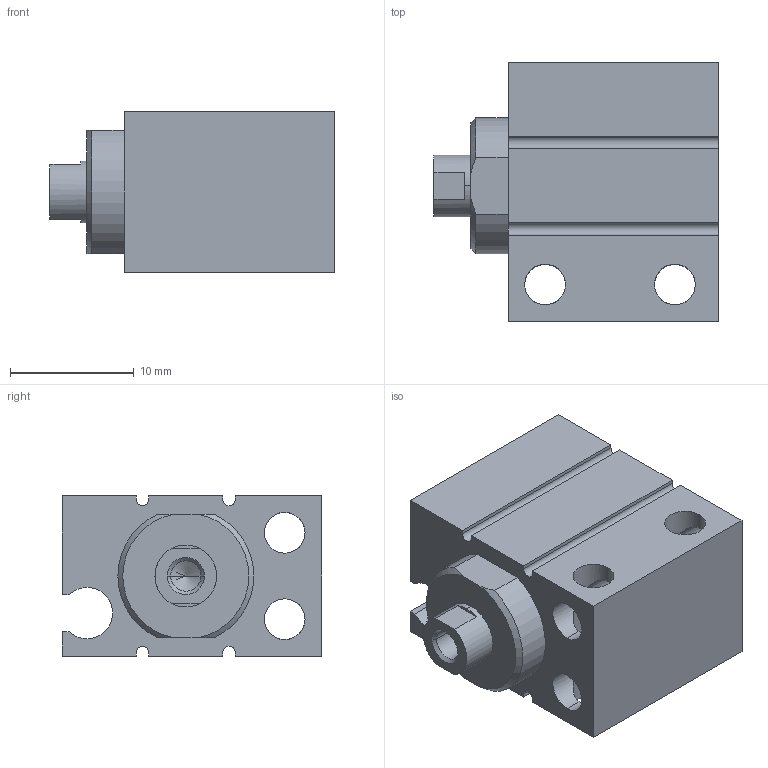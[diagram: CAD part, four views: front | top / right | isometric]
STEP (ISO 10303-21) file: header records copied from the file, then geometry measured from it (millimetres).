
FILE_DESCRIPTION (( 'STEP AP203' ), '1' );
FILE_NAME ('CLJB8-4.STEP', '2020-07-30T18:44:22', ( '' ), ( '' ), 'SwSTEP 2.0', 'SolidWorks 2019', '' );
FILE_SCHEMA (( 'CONFIG_CONTROL_DESIGN' ));
Length unit declared in the file: millimetre
Products named in the file (1): CLJB8-4
Bounding box: 23 x 21 x 13 mm (x, y, z)
Volume: 4082.6 mm3; surface area: 3116.9 mm2
Topology: 2 solids, 2 shells, 96 faces, 252 edges, 153 vertices
Faces by surface type: cylinder 49, plane 33, cone 14
Entity records: 2995 total; most frequent: CARTESIAN_POINT 604, ORIENTED_EDGE 492, DIRECTION 482, EDGE_CURVE 246, AXIS2_PLACEMENT_3D 175, VERTEX_POINT 153, VECTOR 132, LINE 132
